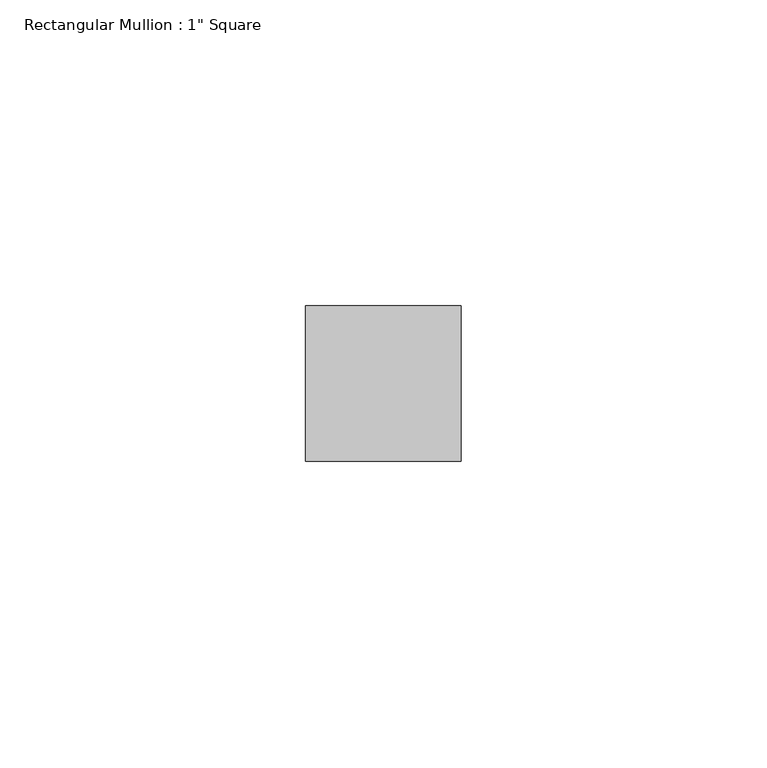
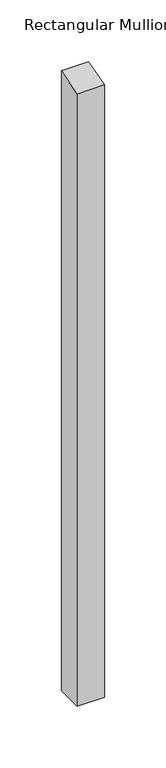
"""IFC4 building model written with IfcOpenShell, lengths in millimetres: member geometry."""

from ifc_helpers import new_model, si_unit, origin, place, context, project, spatial, faceted_brep, source, transform, mapped, element, save


def member_c947e835(model_context):
    return source(origin(), model_context, "Body", "Brep", [
        faceted_brep([(0.0, 12.7, -609.6), (0.0, -12.7, -609.6), (-25.4, -12.7, -609.6), (-25.4, 12.7, -609.6), (-25.4, 12.7, 3.4180748), (0.0, 12.7, 3.7056517), (-25.4, -12.7, -3.9932286), (0.0, -12.7, -3.7056517)], [[[0, 1, 2, 3]], [[4, 5, 0, 3]], [[6, 4, 3, 2]], [[7, 6, 2, 1]], [[5, 7, 1, 0]], [[5, 4, 6, 7]]]),
    ])


if __name__ == "__main__":
    model = new_model("IFC4")
    model_context = context("Model", 3, world=origin())
    ifc_project = project(units=[si_unit("LENGTHUNIT", "METRE", prefix="MILLI")], contexts=[model_context])
    site = spatial("IfcSite", under=ifc_project)
    building = spatial("IfcBuilding", under=site)
    placement = place(None, origin())
    member_shape = member_c947e835(model_context)
    element("IfcMember", 1, ObjectType="Rectangular Mullion : 1\" Square", at=placement, inside=building, context=model_context, shape_type="MappedRepresentation", body=[
        mapped(member_shape, transform((0.0, 0.0, 0.0), x_axis=(1.0, 0.0, 0.0), y_axis=(0.0, 1.0, 0.0), z_axis=(0.0, 0.0, 1.0))),
    ])
    save(model, "model.ifc")
